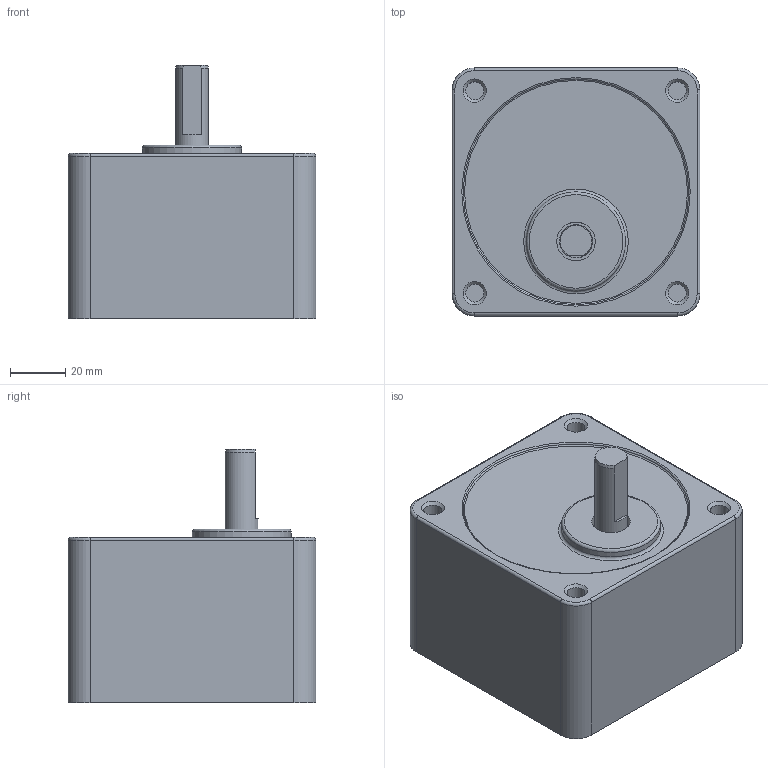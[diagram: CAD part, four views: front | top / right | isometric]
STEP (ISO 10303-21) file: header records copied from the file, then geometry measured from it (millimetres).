
FILE_DESCRIPTION((''),'2;1');
FILE_NAME('D:\STP파일\GEAR HEAD\40W\S9DB20~200.stp','2013-05-20T19:14:39',('leebh'),(''),'Autodesk Inventor 2011','Autodesk Inventor 2011','');
FILE_SCHEMA(('AUTOMOTIVE_DESIGN { 1 0 10303 214 1 1 1 1 }'));
Length unit declared in the file: millimetre
Products named in the file (1): S9I90G-T1
Bounding box: 90 x 90 x 92 mm (x, y, z)
Volume: 436948.9 mm3; surface area: 44530.7 mm2
Topology: 1 solids, 1 shells, 48 faces, 93 edges, 57 vertices
Faces by surface type: plane 18, cylinder 17, torus 8, cone 5
Full cylindrical faces by diameter (mm): 6.5 x4, 9 x1, 12 x1, 14 x1, 36 x1, 83 x1
Entity records: 1156 total; most frequent: DIRECTION 220, CARTESIAN_POINT 184, ORIENTED_EDGE 150, AXIS2_PLACEMENT_3D 98, EDGE_CURVE 75, EDGE_LOOP 75, VERTEX_POINT 56, CIRCLE 49
